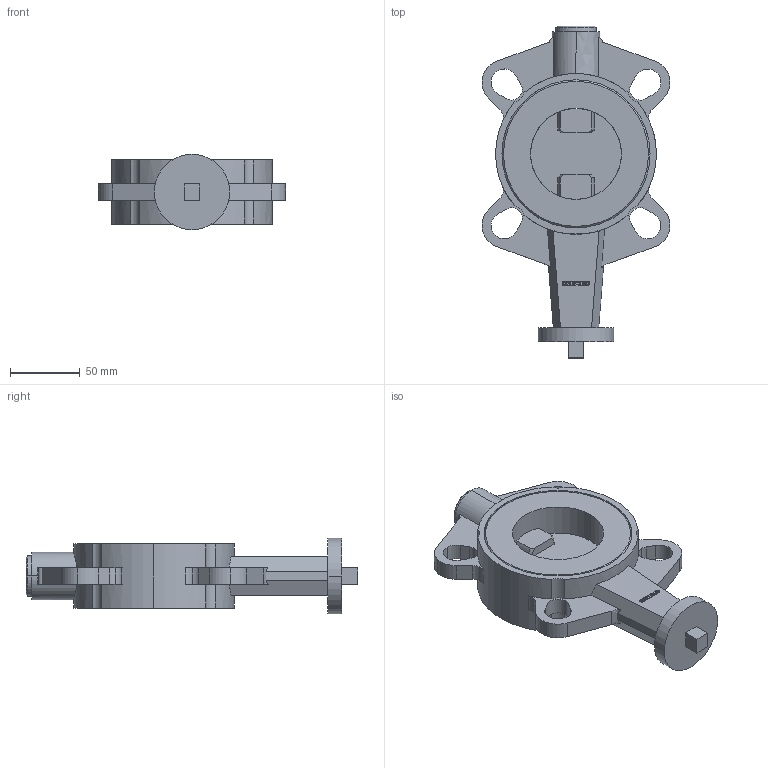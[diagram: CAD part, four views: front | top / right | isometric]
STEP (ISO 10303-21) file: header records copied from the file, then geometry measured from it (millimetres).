
FILE_DESCRIPTION((''),'2;1');
FILE_NAME('KL000012.dwg.stp','2006-10-04T11:30:46',(''),(''),'Mechanical Desktop 2006','Mechanical Desktop 2006',', , ');
FILE_SCHEMA(('AUTOMOTIVE_DESIGN { 1 2 10303 214 0 1 1 1 }'));
Length unit declared in the file: millimetre
Products named in the file (1): Product
Bounding box: 134.49 x 237.5 x 54 mm (x, y, z)
Volume: 505428.9 mm3; surface area: 112567.5 mm2
Topology: 21 solids, 21 shells, 484 faces, 1322 edges, 880 vertices
Faces by surface type: cylinder 220, plane 197, bspline 57, cone 10
Entity records: 16142 total; most frequent: CARTESIAN_POINT 3546, DIRECTION 2684, ORIENTED_EDGE 2644, EDGE_CURVE 1322, AXIS2_PLACEMENT_3D 966, VERTEX_POINT 880, VECTOR 752, LINE 752
